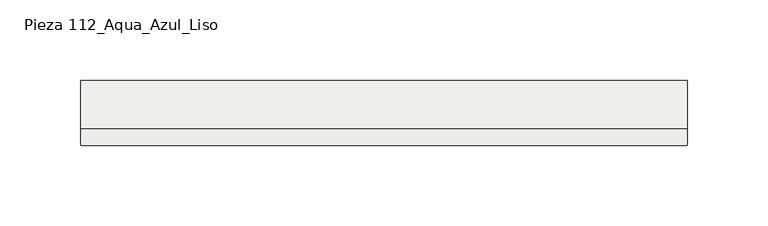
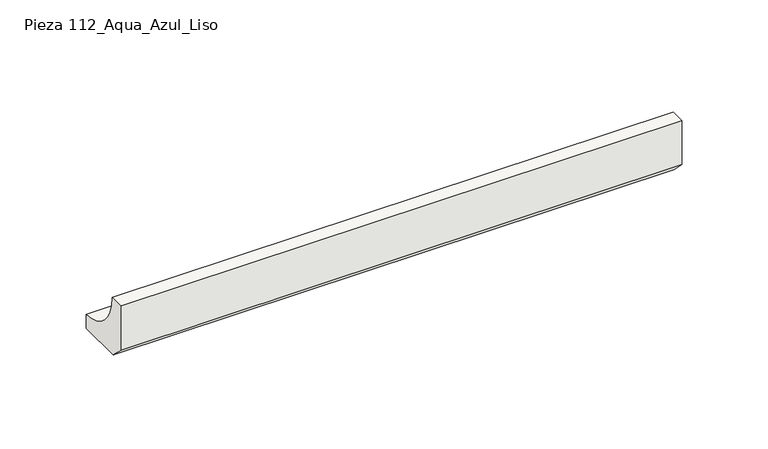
"""IFC4 building model written with IfcOpenShell, lengths in millimetres: slab geometry, ROSA GRES_112 : Pieza 112_Aqua_Azul_Liso."""

from ifc_helpers import new_model, si_unit, point, frame, frame_2d, origin, place, context, project, spatial, polyline, circle_curve, trimmed, segment, composite_curve, outline, extrude, source, transform, mapped, element, save


def pieza_112_aqua_azul_liso_6104ae89(model_context):
    return source(origin(), model_context, "Body", "SweptSolid", [
        extrude(outline(composite_curve([segment(polyline([(0.0, 8.7114978), (0.0, 40.0), (9.9734114, 40.0)]), True, "CONTINUOUS"), segment(trimmed(circle_curve(frame_2d((39.9955547, 39.9955547)), 30.0221435), [point((9.9734114, 40.0))], [point((40.0, 9.9734114))], True, "CARTESIAN"), True, "CONTINUOUS"), segment(polyline([(40.0, 9.9734114), (40.0, 0.0), (8.7114978, 0.0), (0.0, 8.7114978)]), True, "CONTINUOUS")], self_intersect=False)), frame((0.0, 0.0, 0.0), z_axis=(1.0, 0.0, 0.0), x_axis=(0.0, 1.0, 0.0)), (0.0, 0.0, 1.0), 375.0),
    ])


if __name__ == "__main__":
    model = new_model("IFC4")
    model_context = context("Model", 3, world=origin())
    ifc_project = project(units=[si_unit("LENGTHUNIT", "METRE", prefix="MILLI")], contexts=[model_context])
    site = spatial("IfcSite", under=ifc_project)
    building = spatial("IfcBuilding", under=site)
    placement = place(None, origin())
    pieza_112_aqua_azul_liso_shape = pieza_112_aqua_azul_liso_6104ae89(model_context)
    element("IfcSlab", 1, ObjectType="ROSA GRES_112 : Pieza 112_Aqua_Azul_Liso", at=placement, inside=building, context=model_context, shape_type="MappedRepresentation", body=[
        mapped(pieza_112_aqua_azul_liso_shape, transform((0.0, 0.0, 0.0), x_axis=(1.0, 0.0, 0.0), y_axis=(0.0, 1.0, 0.0), z_axis=(0.0, 0.0, 1.0))),
    ])
    save(model, "model.ifc")
